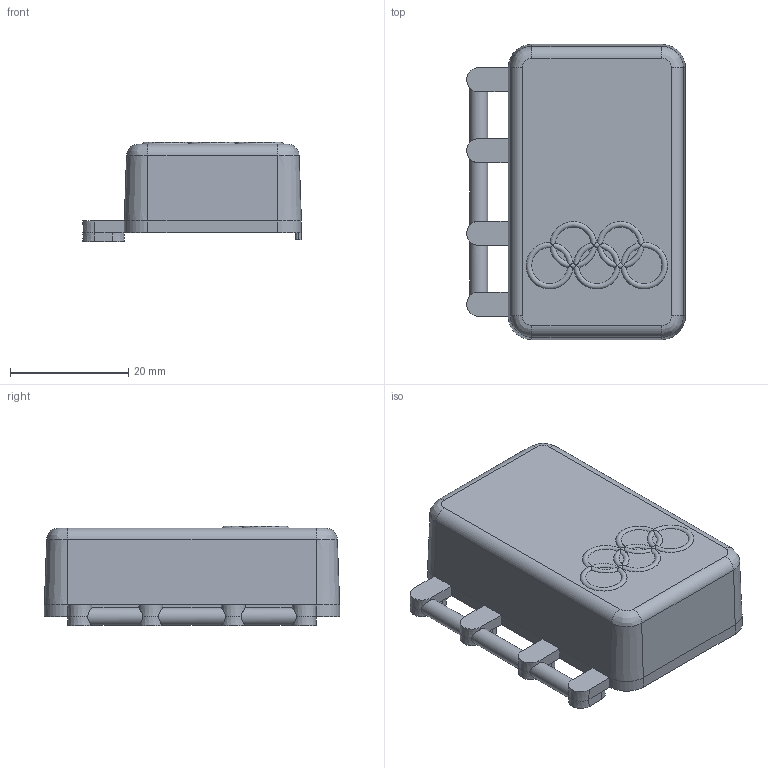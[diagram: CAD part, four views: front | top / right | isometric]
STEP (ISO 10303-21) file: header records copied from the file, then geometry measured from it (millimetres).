
FILE_DESCRIPTION(/* description */ (''),/* implementation_level */ '2;1');
FILE_NAME(/* name */ 'E:\塑料模具\现代模具制造技术\迷你收纳盒\迷你收纳盒上盖.stp',/* time_stamp */ '2021-12-03T11:22:34+08:00',/* author */ ('Administrator'),/* organization */ (''),/* preprocessor_version */ 'ST-DEVELOPER v18',/* originating_system */ 'Autodesk Inventor 2020',/* authorisation */ '');
FILE_SCHEMA (('AUTOMOTIVE_DESIGN { 1 0 10303 214 3 1 1 }'));
Length unit declared in the file: millimetre
Products named in the file (1): 下盖
Bounding box: 37.05 x 50 x 16.8 mm (x, y, z)
Volume: 7129 mm3; surface area: 7500.5 mm2
Topology: 1 solids, 1 shells, 130 faces, 323 edges, 197 vertices
Faces by surface type: plane 65, cylinder 21, cone 20, torus 16, bspline 8
Full cylindrical faces by diameter (mm): 3 x3
Entity records: 4440 total; most frequent: CARTESIAN_POINT 1211, DIRECTION 651, ORIENTED_EDGE 646, EDGE_CURVE 323, AXIS2_PLACEMENT_3D 249, VERTEX_POINT 197, LINE 153, VECTOR 153
